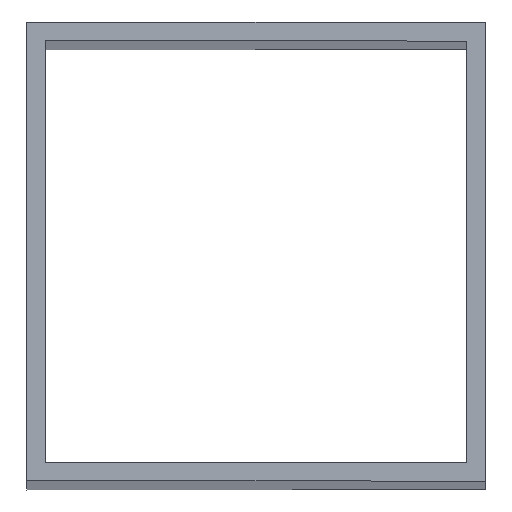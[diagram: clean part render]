
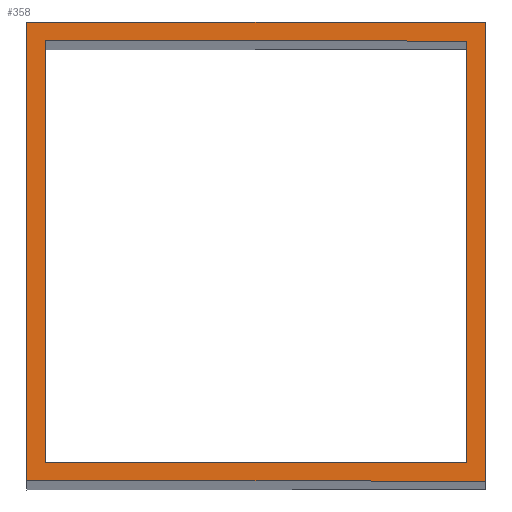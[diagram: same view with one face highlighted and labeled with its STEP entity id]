
A CAD part, top view. The second image highlights one B-rep face of the part: STEP entity #358.
In plain terms, the highlighted planar face has unit normal (0.707, 0, 0.707).
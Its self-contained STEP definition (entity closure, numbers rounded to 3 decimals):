
#32 = PLANE('',#33);
#33 = AXIS2_PLACEMENT_3D('',#34,#35,#36);
#34 = CARTESIAN_POINT('',(-75.,-75.,-75.));
#35 = DIRECTION('',(0.,1.,0.));
#36 = DIRECTION('',(1.,0.,0.));
#55 = VERTEX_POINT('',#56);
#56 = CARTESIAN_POINT('',(-75.,-75.,1725.));
#70 = PLANE('',#71);
#71 = AXIS2_PLACEMENT_3D('',#72,#73,#74);
#72 = CARTESIAN_POINT('',(-75.,75.,-75.));
#73 = DIRECTION('',(1.,0.,-0.));
#74 = DIRECTION('',(0.,-1.,0.));
#82 = EDGE_CURVE('',#83,#55,#85,.T.);
#83 = VERTEX_POINT('',#84);
#84 = CARTESIAN_POINT('',(75.,-75.,1575.));
#85 = SURFACE_CURVE('',#86,(#90,#96),.PCURVE_S1.);
#86 = LINE('',#87,#88);
#87 = CARTESIAN_POINT('',(825.,-75.,825.));
#88 = VECTOR('',#89,1.);
#89 = DIRECTION('',(-0.707,0.,0.707));
#90 = PCURVE('',#32,#91);
#91 = DEFINITIONAL_REPRESENTATION('',(#92),#95);
#92 = B_SPLINE_CURVE_WITH_KNOTS('',1,(#93,#94),.UNSPECIFIED.,.F.,.F.,(2,
    2),(1060.66,1272.792),.PIECEWISE_BEZIER_KNOTS.);
#93 = CARTESIAN_POINT('',(150.,-1650.));
#94 = CARTESIAN_POINT('',(0.,-1800.));
#95 = ( GEOMETRIC_REPRESENTATION_CONTEXT(2) 
PARAMETRIC_REPRESENTATION_CONTEXT() REPRESENTATION_CONTEXT('2D SPACE',''
  ) );
#96 = PCURVE('',#97,#102);
#97 = PLANE('',#98);
#98 = AXIS2_PLACEMENT_3D('',#99,#100,#101);
#99 = CARTESIAN_POINT('',(825.,-0.,825.));
#100 = DIRECTION('',(-0.707,0.,-0.707));
#101 = DIRECTION('',(-0.707,0.,0.707));
#102 = DEFINITIONAL_REPRESENTATION('',(#103),#106);
#103 = B_SPLINE_CURVE_WITH_KNOTS('',1,(#104,#105),.UNSPECIFIED.,.F.,.F.,
  (2,2),(1060.66,1272.792),
  .PIECEWISE_BEZIER_KNOTS.);
#104 = CARTESIAN_POINT('',(1060.66,-75.));
#105 = CARTESIAN_POINT('',(1272.792,-75.));
#106 = ( GEOMETRIC_REPRESENTATION_CONTEXT(2) 
PARAMETRIC_REPRESENTATION_CONTEXT() REPRESENTATION_CONTEXT('2D SPACE',''
  ) );
#122 = PLANE('',#123);
#123 = AXIS2_PLACEMENT_3D('',#124,#125,#126);
#124 = CARTESIAN_POINT('',(75.,-75.,-75.));
#125 = DIRECTION('',(-1.,0.,0.));
#126 = DIRECTION('',(0.,1.,0.));
#154 = PLANE('',#155);
#155 = AXIS2_PLACEMENT_3D('',#156,#157,#158);
#156 = CARTESIAN_POINT('',(75.,75.,-75.));
#157 = DIRECTION('',(0.,-1.,0.));
#158 = DIRECTION('',(-1.,0.,0.));
#225 = PLANE('',#226);
#226 = AXIS2_PLACEMENT_3D('',#227,#228,#229);
#227 = CARTESIAN_POINT('',(-69.,-69.,-75.));
#228 = DIRECTION('',(0.,1.,0.));
#229 = DIRECTION('',(1.,0.,0.));
#251 = PLANE('',#252);
#252 = AXIS2_PLACEMENT_3D('',#253,#254,#255);
#253 = CARTESIAN_POINT('',(-69.,69.,-75.));
#254 = DIRECTION('',(1.,0.,-0.));
#255 = DIRECTION('',(0.,-1.,0.));
#277 = PLANE('',#278);
#278 = AXIS2_PLACEMENT_3D('',#279,#280,#281);
#279 = CARTESIAN_POINT('',(69.,69.,-75.));
#280 = DIRECTION('',(0.,-1.,0.));
#281 = DIRECTION('',(-1.,0.,0.));
#301 = PLANE('',#302);
#302 = AXIS2_PLACEMENT_3D('',#303,#304,#305);
#303 = CARTESIAN_POINT('',(69.,-69.,-75.));
#304 = DIRECTION('',(-1.,0.,0.));
#305 = DIRECTION('',(0.,1.,0.));
#317 = EDGE_CURVE('',#318,#83,#320,.T.);
#318 = VERTEX_POINT('',#319);
#319 = CARTESIAN_POINT('',(75.,75.,1575.));
#320 = SURFACE_CURVE('',#321,(#325,#331),.PCURVE_S1.);
#321 = LINE('',#322,#323);
#322 = CARTESIAN_POINT('',(75.,-37.5,1575.));
#323 = VECTOR('',#324,1.);
#324 = DIRECTION('',(-0.,-1.,0.));
#325 = PCURVE('',#122,#326);
#326 = DEFINITIONAL_REPRESENTATION('',(#327),#330);
#327 = B_SPLINE_CURVE_WITH_KNOTS('',1,(#328,#329),.UNSPECIFIED.,.F.,.F.,
  (2,2),(-112.5,37.5),.PIECEWISE_BEZIER_KNOTS.);
#328 = CARTESIAN_POINT('',(150.,-1650.));
#329 = CARTESIAN_POINT('',(0.,-1650.));
#330 = ( GEOMETRIC_REPRESENTATION_CONTEXT(2) 
PARAMETRIC_REPRESENTATION_CONTEXT() REPRESENTATION_CONTEXT('2D SPACE',''
  ) );
#331 = PCURVE('',#97,#332);
#332 = DEFINITIONAL_REPRESENTATION('',(#333),#336);
#333 = B_SPLINE_CURVE_WITH_KNOTS('',1,(#334,#335),.UNSPECIFIED.,.F.,.F.,
  (2,2),(-112.5,37.5),.PIECEWISE_BEZIER_KNOTS.);
#334 = CARTESIAN_POINT('',(1060.66,75.));
#335 = CARTESIAN_POINT('',(1060.66,-75.));
#336 = ( GEOMETRIC_REPRESENTATION_CONTEXT(2) 
PARAMETRIC_REPRESENTATION_CONTEXT() REPRESENTATION_CONTEXT('2D SPACE',''
  ) );
#358 = ADVANCED_FACE('',(#359,#405),#97,.F.);
#359 = FACE_BOUND('',#360,.F.);
#360 = EDGE_LOOP('',(#361,#384,#403,#404));
#361 = ORIENTED_EDGE('',*,*,#362,.F.);
#362 = EDGE_CURVE('',#363,#55,#365,.T.);
#363 = VERTEX_POINT('',#364);
#364 = CARTESIAN_POINT('',(-75.,75.,1725.));
#365 = SURFACE_CURVE('',#366,(#370,#377),.PCURVE_S1.);
#366 = LINE('',#367,#368);
#367 = CARTESIAN_POINT('',(-75.,75.,1725.));
#368 = VECTOR('',#369,1.);
#369 = DIRECTION('',(0.,-1.,0.));
#370 = PCURVE('',#97,#371);
#371 = DEFINITIONAL_REPRESENTATION('',(#372),#376);
#372 = LINE('',#373,#374);
#373 = CARTESIAN_POINT('',(1272.792,75.));
#374 = VECTOR('',#375,1.);
#375 = DIRECTION('',(0.,-1.));
#376 = ( GEOMETRIC_REPRESENTATION_CONTEXT(2) 
PARAMETRIC_REPRESENTATION_CONTEXT() REPRESENTATION_CONTEXT('2D SPACE',''
  ) );
#377 = PCURVE('',#70,#378);
#378 = DEFINITIONAL_REPRESENTATION('',(#379),#383);
#379 = LINE('',#380,#381);
#380 = CARTESIAN_POINT('',(0.,-1800.));
#381 = VECTOR('',#382,1.);
#382 = DIRECTION('',(1.,0.));
#383 = ( GEOMETRIC_REPRESENTATION_CONTEXT(2) 
PARAMETRIC_REPRESENTATION_CONTEXT() REPRESENTATION_CONTEXT('2D SPACE',''
  ) );
#384 = ORIENTED_EDGE('',*,*,#385,.T.);
#385 = EDGE_CURVE('',#363,#318,#386,.T.);
#386 = SURFACE_CURVE('',#387,(#391,#397),.PCURVE_S1.);
#387 = LINE('',#388,#389);
#388 = CARTESIAN_POINT('',(862.5,75.,787.5));
#389 = VECTOR('',#390,1.);
#390 = DIRECTION('',(0.707,0.,-0.707));
#391 = PCURVE('',#97,#392);
#392 = DEFINITIONAL_REPRESENTATION('',(#393),#396);
#393 = B_SPLINE_CURVE_WITH_KNOTS('',1,(#394,#395),.UNSPECIFIED.,.F.,.F.,
  (2,2),(-1325.825,-1113.693),
  .PIECEWISE_BEZIER_KNOTS.);
#394 = CARTESIAN_POINT('',(1272.792,75.));
#395 = CARTESIAN_POINT('',(1060.66,75.));
#396 = ( GEOMETRIC_REPRESENTATION_CONTEXT(2) 
PARAMETRIC_REPRESENTATION_CONTEXT() REPRESENTATION_CONTEXT('2D SPACE',''
  ) );
#397 = PCURVE('',#154,#398);
#398 = DEFINITIONAL_REPRESENTATION('',(#399),#402);
#399 = B_SPLINE_CURVE_WITH_KNOTS('',1,(#400,#401),.UNSPECIFIED.,.F.,.F.,
  (2,2),(-1325.825,-1113.693),
  .PIECEWISE_BEZIER_KNOTS.);
#400 = CARTESIAN_POINT('',(150.,-1800.));
#401 = CARTESIAN_POINT('',(0.,-1650.));
#402 = ( GEOMETRIC_REPRESENTATION_CONTEXT(2) 
PARAMETRIC_REPRESENTATION_CONTEXT() REPRESENTATION_CONTEXT('2D SPACE',''
  ) );
#403 = ORIENTED_EDGE('',*,*,#317,.T.);
#404 = ORIENTED_EDGE('',*,*,#82,.T.);
#405 = FACE_BOUND('',#406,.F.);
#406 = EDGE_LOOP('',(#407,#430,#451,#472));
#407 = ORIENTED_EDGE('',*,*,#408,.F.);
#408 = EDGE_CURVE('',#409,#411,#413,.T.);
#409 = VERTEX_POINT('',#410);
#410 = CARTESIAN_POINT('',(69.,-69.,1581.));
#411 = VERTEX_POINT('',#412);
#412 = CARTESIAN_POINT('',(-69.,-69.,1719.));
#413 = SURFACE_CURVE('',#414,(#418,#424),.PCURVE_S1.);
#414 = LINE('',#415,#416);
#415 = CARTESIAN_POINT('',(826.5,-69.,823.5));
#416 = VECTOR('',#417,1.);
#417 = DIRECTION('',(-0.707,0.,0.707));
#418 = PCURVE('',#97,#419);
#419 = DEFINITIONAL_REPRESENTATION('',(#420),#423);
#420 = B_SPLINE_CURVE_WITH_KNOTS('',1,(#421,#422),.UNSPECIFIED.,.F.,.F.,
  (2,2),(1071.267,1266.428),
  .PIECEWISE_BEZIER_KNOTS.);
#421 = CARTESIAN_POINT('',(1069.145,-69.));
#422 = CARTESIAN_POINT('',(1264.307,-69.));
#423 = ( GEOMETRIC_REPRESENTATION_CONTEXT(2) 
PARAMETRIC_REPRESENTATION_CONTEXT() REPRESENTATION_CONTEXT('2D SPACE',''
  ) );
#424 = PCURVE('',#225,#425);
#425 = DEFINITIONAL_REPRESENTATION('',(#426),#429);
#426 = B_SPLINE_CURVE_WITH_KNOTS('',1,(#427,#428),.UNSPECIFIED.,.F.,.F.,
  (2,2),(1071.267,1266.428),
  .PIECEWISE_BEZIER_KNOTS.);
#427 = CARTESIAN_POINT('',(138.,-1656.));
#428 = CARTESIAN_POINT('',(0.,-1794.));
#429 = ( GEOMETRIC_REPRESENTATION_CONTEXT(2) 
PARAMETRIC_REPRESENTATION_CONTEXT() REPRESENTATION_CONTEXT('2D SPACE',''
  ) );
#430 = ORIENTED_EDGE('',*,*,#431,.F.);
#431 = EDGE_CURVE('',#432,#409,#434,.T.);
#432 = VERTEX_POINT('',#433);
#433 = CARTESIAN_POINT('',(69.,69.,1581.));
#434 = SURFACE_CURVE('',#435,(#439,#445),.PCURVE_S1.);
#435 = LINE('',#436,#437);
#436 = CARTESIAN_POINT('',(69.,-34.5,1581.));
#437 = VECTOR('',#438,1.);
#438 = DIRECTION('',(-0.,-1.,0.));
#439 = PCURVE('',#97,#440);
#440 = DEFINITIONAL_REPRESENTATION('',(#441),#444);
#441 = B_SPLINE_CURVE_WITH_KNOTS('',1,(#442,#443),.UNSPECIFIED.,.F.,.F.,
  (2,2),(-103.5,34.5),.PIECEWISE_BEZIER_KNOTS.);
#442 = CARTESIAN_POINT('',(1069.145,69.));
#443 = CARTESIAN_POINT('',(1069.145,-69.));
#444 = ( GEOMETRIC_REPRESENTATION_CONTEXT(2) 
PARAMETRIC_REPRESENTATION_CONTEXT() REPRESENTATION_CONTEXT('2D SPACE',''
  ) );
#445 = PCURVE('',#301,#446);
#446 = DEFINITIONAL_REPRESENTATION('',(#447),#450);
#447 = B_SPLINE_CURVE_WITH_KNOTS('',1,(#448,#449),.UNSPECIFIED.,.F.,.F.,
  (2,2),(-103.5,34.5),.PIECEWISE_BEZIER_KNOTS.);
#448 = CARTESIAN_POINT('',(138.,-1656.));
#449 = CARTESIAN_POINT('',(0.,-1656.));
#450 = ( GEOMETRIC_REPRESENTATION_CONTEXT(2) 
PARAMETRIC_REPRESENTATION_CONTEXT() REPRESENTATION_CONTEXT('2D SPACE',''
  ) );
#451 = ORIENTED_EDGE('',*,*,#452,.F.);
#452 = EDGE_CURVE('',#453,#432,#455,.T.);
#453 = VERTEX_POINT('',#454);
#454 = CARTESIAN_POINT('',(-69.,69.,1719.));
#455 = SURFACE_CURVE('',#456,(#460,#466),.PCURVE_S1.);
#456 = LINE('',#457,#458);
#457 = CARTESIAN_POINT('',(861.,69.,789.));
#458 = VECTOR('',#459,1.);
#459 = DIRECTION('',(0.707,0.,-0.707));
#460 = PCURVE('',#97,#461);
#461 = DEFINITIONAL_REPRESENTATION('',(#462),#465);
#462 = B_SPLINE_CURVE_WITH_KNOTS('',1,(#463,#464),.UNSPECIFIED.,.F.,.F.,
  (2,2),(-1315.219,-1120.057),
  .PIECEWISE_BEZIER_KNOTS.);
#463 = CARTESIAN_POINT('',(1264.307,69.));
#464 = CARTESIAN_POINT('',(1069.145,69.));
#465 = ( GEOMETRIC_REPRESENTATION_CONTEXT(2) 
PARAMETRIC_REPRESENTATION_CONTEXT() REPRESENTATION_CONTEXT('2D SPACE',''
  ) );
#466 = PCURVE('',#277,#467);
#467 = DEFINITIONAL_REPRESENTATION('',(#468),#471);
#468 = B_SPLINE_CURVE_WITH_KNOTS('',1,(#469,#470),.UNSPECIFIED.,.F.,.F.,
  (2,2),(-1315.219,-1120.057),
  .PIECEWISE_BEZIER_KNOTS.);
#469 = CARTESIAN_POINT('',(138.,-1794.));
#470 = CARTESIAN_POINT('',(0.,-1656.));
#471 = ( GEOMETRIC_REPRESENTATION_CONTEXT(2) 
PARAMETRIC_REPRESENTATION_CONTEXT() REPRESENTATION_CONTEXT('2D SPACE',''
  ) );
#472 = ORIENTED_EDGE('',*,*,#473,.F.);
#473 = EDGE_CURVE('',#411,#453,#474,.T.);
#474 = SURFACE_CURVE('',#475,(#479,#485),.PCURVE_S1.);
#475 = LINE('',#476,#477);
#476 = CARTESIAN_POINT('',(-69.,34.5,1719.));
#477 = VECTOR('',#478,1.);
#478 = DIRECTION('',(0.,1.,0.));
#479 = PCURVE('',#97,#480);
#480 = DEFINITIONAL_REPRESENTATION('',(#481),#484);
#481 = B_SPLINE_CURVE_WITH_KNOTS('',1,(#482,#483),.UNSPECIFIED.,.F.,.F.,
  (2,2),(-103.5,34.5),.PIECEWISE_BEZIER_KNOTS.);
#482 = CARTESIAN_POINT('',(1264.307,-69.));
#483 = CARTESIAN_POINT('',(1264.307,69.));
#484 = ( GEOMETRIC_REPRESENTATION_CONTEXT(2) 
PARAMETRIC_REPRESENTATION_CONTEXT() REPRESENTATION_CONTEXT('2D SPACE',''
  ) );
#485 = PCURVE('',#251,#486);
#486 = DEFINITIONAL_REPRESENTATION('',(#487),#490);
#487 = B_SPLINE_CURVE_WITH_KNOTS('',1,(#488,#489),.UNSPECIFIED.,.F.,.F.,
  (2,2),(-103.5,34.5),.PIECEWISE_BEZIER_KNOTS.);
#488 = CARTESIAN_POINT('',(138.,-1794.));
#489 = CARTESIAN_POINT('',(0.,-1794.));
#490 = ( GEOMETRIC_REPRESENTATION_CONTEXT(2) 
PARAMETRIC_REPRESENTATION_CONTEXT() REPRESENTATION_CONTEXT('2D SPACE',''
  ) );
